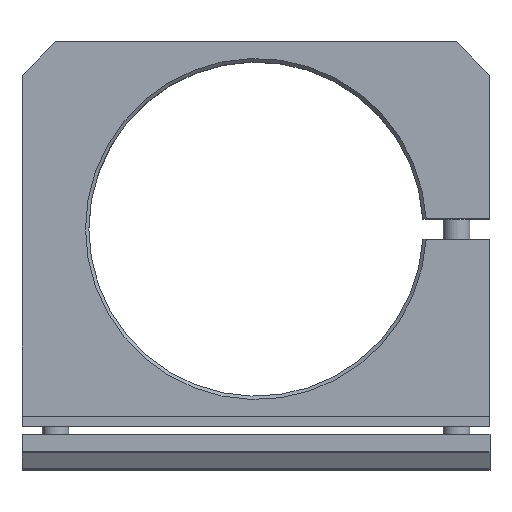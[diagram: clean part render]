
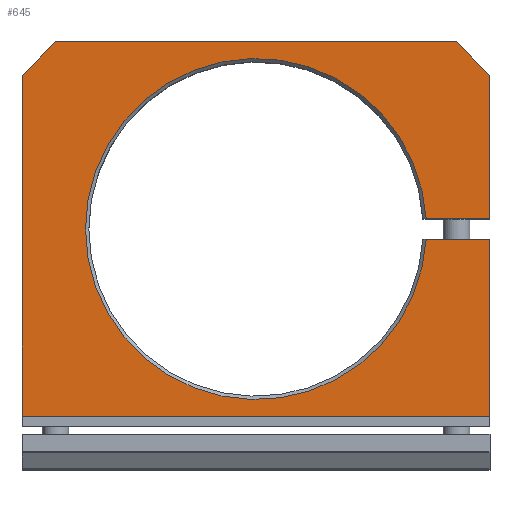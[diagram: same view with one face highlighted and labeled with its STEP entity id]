
A CAD part, top view. The second image highlights one B-rep face of the part: STEP entity #645.
In plain terms, the highlighted planar face has unit normal (0, 0, 1).
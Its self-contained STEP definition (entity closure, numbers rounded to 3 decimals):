
#89 = LINE ( 'NONE', #7334, #2208 ) ;
#246 = EDGE_LOOP ( 'NONE', ( #7231, #2046, #1285, #356, #9547, #4756, #9669, #6450, #8438, #4804 ) ) ;
#356 = ORIENTED_EDGE ( 'NONE', *, *, #3101, .T. ) ;
#465 = CARTESIAN_POINT ( 'NONE',  ( -60.388, 18.268, 32.465 ) ) ;
#645 = ADVANCED_FACE ( 'NONE', ( #4587 ), #8797, .T. ) ;
#778 = VECTOR ( 'NONE', #7651, 1000. ) ;
#906 = CARTESIAN_POINT ( 'NONE',  ( -25.388, 41.268, 32.465 ) ) ;
#1003 = VECTOR ( 'NONE', #3841, 1000. ) ;
#1036 = EDGE_CURVE ( 'NONE', #7579, #7089, #9659, .T. ) ;
#1044 = VERTEX_POINT ( 'NONE', #8774 ) ;
#1052 = CARTESIAN_POINT ( 'NONE',  ( 0., 0., 32.465 ) ) ;
#1285 = ORIENTED_EDGE ( 'NONE', *, *, #3912, .T. ) ;
#1443 = LINE ( 'NONE', #7578, #8097 ) ;
#1447 = CARTESIAN_POINT ( 'NONE',  ( -25.388, 19.768, 32.465 ) ) ;
#1455 = DIRECTION ( 'NONE',  ( -0.707, -0.707, 0. ) ) ;
#1994 = VERTEX_POINT ( 'NONE', #9111 ) ;
#2046 = ORIENTED_EDGE ( 'NONE', *, *, #8234, .T. ) ;
#2119 = DIRECTION ( 'NONE',  ( -1., 0., 0. ) ) ;
#2208 = VECTOR ( 'NONE', #5171, 1000. ) ;
#2287 = DIRECTION ( 'NONE',  ( 0., 1., 0. ) ) ;
#2528 = CARTESIAN_POINT ( 'NONE',  ( -34.932, 16.768, 32.465 ) ) ;
#2609 = CARTESIAN_POINT ( 'NONE',  ( -34.932, 19.768, 32.465 ) ) ;
#3101 = EDGE_CURVE ( 'NONE', #3287, #4228, #7633, .T. ) ;
#3285 = CARTESIAN_POINT ( 'NONE',  ( -95.388, 41.268, 32.465 ) ) ;
#3287 = VERTEX_POINT ( 'NONE', #1447 ) ;
#3562 = DIRECTION ( 'NONE',  ( 1., 0., 0. ) ) ;
#3587 = VERTEX_POINT ( 'NONE', #2609 ) ;
#3720 = LINE ( 'NONE', #7495, #778 ) ;
#3805 = CARTESIAN_POINT ( 'NONE',  ( -25.388, -11.232, 32.465 ) ) ;
#3841 = DIRECTION ( 'NONE',  ( 0., 1., 0. ) ) ;
#3912 = EDGE_CURVE ( 'NONE', #3587, #3287, #1443, .T. ) ;
#3990 = EDGE_CURVE ( 'NONE', #6784, #7579, #8343, .T. ) ;
#4228 = VERTEX_POINT ( 'NONE', #906 ) ;
#4350 = VERTEX_POINT ( 'NONE', #2528 ) ;
#4564 = EDGE_CURVE ( 'NONE', #1044, #7089, #9261, .T. ) ;
#4587 = FACE_OUTER_BOUND ( 'NONE', #246, .T. ) ;
#4756 = ORIENTED_EDGE ( 'NONE', *, *, #9053, .T. ) ;
#4771 = AXIS2_PLACEMENT_3D ( 'NONE', #1052, #7348, #8840 ) ;
#4785 = EDGE_CURVE ( 'NONE', #1994, #4350, #5090, .T. ) ;
#4804 = ORIENTED_EDGE ( 'NONE', *, *, #5741, .T. ) ;
#5090 = LINE ( 'NONE', #5535, #9719 ) ;
#5171 = DIRECTION ( 'NONE',  ( -1., 0., 0. ) ) ;
#5184 = EDGE_CURVE ( 'NONE', #4228, #8154, #3720, .T. ) ;
#5535 = CARTESIAN_POINT ( 'NONE',  ( -25.388, 16.768, 32.465 ) ) ;
#5741 = EDGE_CURVE ( 'NONE', #1044, #1994, #7817, .T. ) ;
#6276 = DIRECTION ( 'NONE',  ( -1., 0., 0. ) ) ;
#6373 = CARTESIAN_POINT ( 'NONE',  ( -95.388, -9.732, 32.465 ) ) ;
#6428 = CARTESIAN_POINT ( 'NONE',  ( -95.388, 46.268, 32.465 ) ) ;
#6450 = ORIENTED_EDGE ( 'NONE', *, *, #1036, .T. ) ;
#6551 = DIRECTION ( 'NONE',  ( 0., 0., -1. ) ) ;
#6757 = VECTOR ( 'NONE', #2287, 1000. ) ;
#6784 = VERTEX_POINT ( 'NONE', #9168 ) ;
#7089 = VERTEX_POINT ( 'NONE', #6373 ) ;
#7159 = CARTESIAN_POINT ( 'NONE',  ( -30.388, 46.268, 32.465 ) ) ;
#7225 = VECTOR ( 'NONE', #2119, 1000. ) ;
#7231 = ORIENTED_EDGE ( 'NONE', *, *, #4785, .T. ) ;
#7334 = CARTESIAN_POINT ( 'NONE',  ( -25.388, 46.268, 32.465 ) ) ;
#7348 = DIRECTION ( 'NONE',  ( 0., 0., 1. ) ) ;
#7374 = VECTOR ( 'NONE', #1455, 1000. ) ;
#7495 = CARTESIAN_POINT ( 'NONE',  ( 7.94, 7.94, 32.465 ) ) ;
#7515 = CARTESIAN_POINT ( 'NONE',  ( -25.388, -9.732, 32.465 ) ) ;
#7578 = CARTESIAN_POINT ( 'NONE',  ( -35.433, 19.768, 32.465 ) ) ;
#7579 = VERTEX_POINT ( 'NONE', #3285 ) ;
#7633 = LINE ( 'NONE', #8189, #1003 ) ;
#7651 = DIRECTION ( 'NONE',  ( -0.707, 0.707, 0. ) ) ;
#7657 = VECTOR ( 'NONE', #8738, 1000. ) ;
#7817 = LINE ( 'NONE', #3805, #6757 ) ;
#8097 = VECTOR ( 'NONE', #8319, 1000. ) ;
#8154 = VERTEX_POINT ( 'NONE', #7159 ) ;
#8189 = CARTESIAN_POINT ( 'NONE',  ( -25.388, -11.232, 32.465 ) ) ;
#8234 = EDGE_CURVE ( 'NONE', #4350, #3587, #9200, .T. ) ;
#8319 = DIRECTION ( 'NONE',  ( 1., 0., 0. ) ) ;
#8335 = CARTESIAN_POINT ( 'NONE',  ( -68.328, 68.328, 32.465 ) ) ;
#8343 = LINE ( 'NONE', #8335, #7374 ) ;
#8438 = ORIENTED_EDGE ( 'NONE', *, *, #4564, .F. ) ;
#8738 = DIRECTION ( 'NONE',  ( 0., -1., 0. ) ) ;
#8774 = CARTESIAN_POINT ( 'NONE',  ( -25.388, -9.732, 32.465 ) ) ;
#8797 = PLANE ( 'NONE',  #4771 ) ;
#8840 = DIRECTION ( 'NONE',  ( 1., 0., 0. ) ) ;
#9053 = EDGE_CURVE ( 'NONE', #8154, #6784, #89, .T. ) ;
#9111 = CARTESIAN_POINT ( 'NONE',  ( -25.388, 16.768, 32.465 ) ) ;
#9168 = CARTESIAN_POINT ( 'NONE',  ( -90.388, 46.268, 32.465 ) ) ;
#9200 = CIRCLE ( 'NONE', #9663, 25.5 ) ;
#9261 = LINE ( 'NONE', #7515, #7225 ) ;
#9547 = ORIENTED_EDGE ( 'NONE', *, *, #5184, .T. ) ;
#9659 = LINE ( 'NONE', #6428, #7657 ) ;
#9663 = AXIS2_PLACEMENT_3D ( 'NONE', #465, #6551, #3562 ) ;
#9669 = ORIENTED_EDGE ( 'NONE', *, *, #3990, .T. ) ;
#9719 = VECTOR ( 'NONE', #6276, 1000. ) ;
